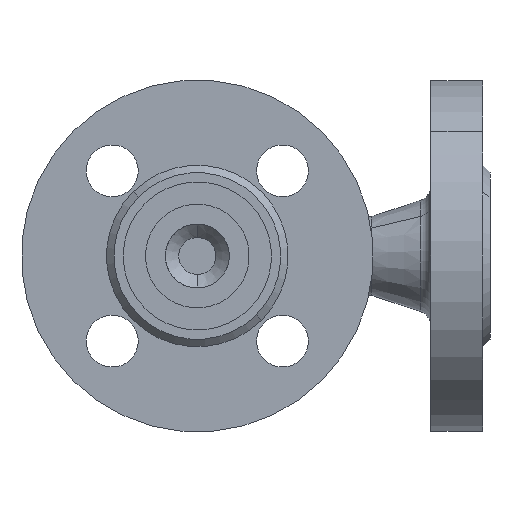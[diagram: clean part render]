
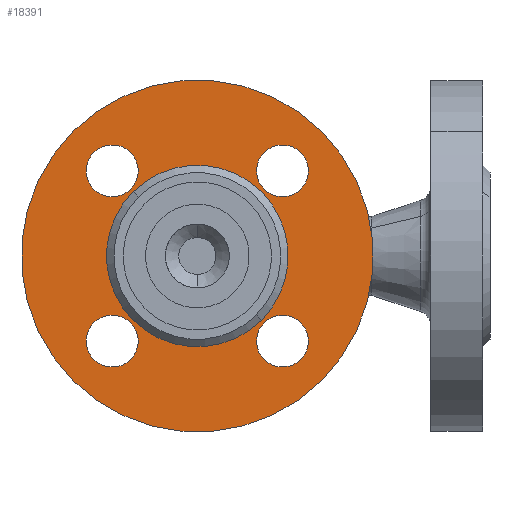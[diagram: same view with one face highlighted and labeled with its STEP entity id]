
A CAD part, front view. The second image highlights one B-rep face of the part: STEP entity #18391.
In plain terms, the highlighted planar face has unit normal (0, -1, 0).
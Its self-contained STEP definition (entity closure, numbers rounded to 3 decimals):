
#3 = EDGE_LOOP ( 'NONE', ( #23164, #21485 ) ) ;
#16465 = EDGE_LOOP ( 'NONE', ( #15949, #3556 ) ) ;
#16467 = VERTEX_POINT ( 'NONE', #11248 ) ;
#16542 = EDGE_CURVE ( 'NONE', #6736, #15077, #11286, .T. ) ;
#222 = CIRCLE ( 'NONE', #223, 7. ) ;
#223 = AXIS2_PLACEMENT_3D ( 'NONE', #224, #245, #246 ) ;
#224 = CARTESIAN_POINT ( 'NONE',  ( -32.5, 2., 0. ) ) ;
#245 = DIRECTION ( 'NONE',  ( 0., 1., 0. ) ) ;
#246 = DIRECTION ( 'NONE',  ( -1., 0., 0. ) ) ;
#16697 = EDGE_CURVE ( 'NONE', #16467, #16244, #12606, .T. ) ;
#16715 = ORIENTED_EDGE ( 'NONE', *, *, #18548, .T. ) ;
#457 = ORIENTED_EDGE ( 'NONE', *, *, #7946, .T. ) ;
#17239 = EDGE_CURVE ( 'NONE', #18031, #18258, #13300, .T. ) ;
#1221 = VERTEX_POINT ( 'NONE', #18914 ) ;
#17616 = ORIENTED_EDGE ( 'NONE', *, *, #17239, .T. ) ;
#1434 = EDGE_CURVE ( 'NONE', #7494, #7714, #19045, .T. ) ;
#1643 = VERTEX_POINT ( 'NONE', #19499 ) ;
#18031 = VERTEX_POINT ( 'NONE', #14804 ) ;
#18144 = EDGE_LOOP ( 'NONE', ( #17616, #16715 ) ) ;
#1883 = CARTESIAN_POINT ( 'NONE',  ( 25.5, 2., 0. ) ) ;
#18258 = VERTEX_POINT ( 'NONE', #15018 ) ;
#18391 = ADVANCED_FACE ( 'NONE', ( #15126, #15127, #15128, #15129, #15130, #15131 ), #15132, .F. ) ;
#2061 = EDGE_CURVE ( 'NONE', #1643, #1221, #19775, .T. ) ;
#2132 = ORIENTED_EDGE ( 'NONE', *, *, #1434, .T. ) ;
#18548 = EDGE_CURVE ( 'NONE', #18258, #18031, #15406, .T. ) ;
#2363 = CARTESIAN_POINT ( 'NONE',  ( 39.5, 2., 0. ) ) ;
#18914 = CARTESIAN_POINT ( 'NONE',  ( -39.5, 2., 0. ) ) ;
#2652 = CIRCLE ( 'NONE', #2653, 7. ) ;
#2653 = AXIS2_PLACEMENT_3D ( 'NONE', #2654, #2655, #2656 ) ;
#2654 = CARTESIAN_POINT ( 'NONE',  ( 32.5, 2., 0. ) ) ;
#2655 = DIRECTION ( 'NONE',  ( 0., 1., 0. ) ) ;
#2656 = DIRECTION ( 'NONE',  ( -1., 0., 0. ) ) ;
#19045 = CIRCLE ( 'NONE', #19046, 7. ) ;
#19046 = AXIS2_PLACEMENT_3D ( 'NONE', #19047, #19048, #19049 ) ;
#19047 = CARTESIAN_POINT ( 'NONE',  ( 0., 2., 32.5 ) ) ;
#19048 = DIRECTION ( 'NONE',  ( 0., 1., 0. ) ) ;
#19049 = DIRECTION ( 'NONE',  ( -1., 0., 0. ) ) ;
#19471 = CIRCLE ( 'NONE', #19472, 47.5 ) ;
#19472 = AXIS2_PLACEMENT_3D ( 'NONE', #19473, #19474, #19475 ) ;
#19473 = CARTESIAN_POINT ( 'NONE',  ( 0., 2., 0. ) ) ;
#19474 = DIRECTION ( 'NONE',  ( 0., 1., 0. ) ) ;
#19475 = DIRECTION ( 'NONE',  ( -1., 0., 0. ) ) ;
#3113 = EDGE_LOOP ( 'NONE', ( #2132, #457 ) ) ;
#19499 = CARTESIAN_POINT ( 'NONE',  ( -25.5, 2., 0. ) ) ;
#19775 = CIRCLE ( 'NONE', #19776, 7. ) ;
#19776 = AXIS2_PLACEMENT_3D ( 'NONE', #19777, #19778, #19779 ) ;
#19777 = CARTESIAN_POINT ( 'NONE',  ( -32.5, 2., 0. ) ) ;
#19778 = DIRECTION ( 'NONE',  ( 0., 1., 0. ) ) ;
#19779 = DIRECTION ( 'NONE',  ( -1., 0., 0. ) ) ;
#3556 = ORIENTED_EDGE ( 'NONE', *, *, #2061, .T. ) ;
#20052 = ORIENTED_EDGE ( 'NONE', *, *, #16697, .F. ) ;
#21036 = EDGE_LOOP ( 'NONE', ( #20052, #9061 ) ) ;
#21071 = EDGE_CURVE ( 'NONE', #16244, #16467, #19471, .T. ) ;
#21485 = ORIENTED_EDGE ( 'NONE', *, *, #12236, .T. ) ;
#22462 = EDGE_CURVE ( 'NONE', #11779, #12006, #22697, .T. ) ;
#22697 = CIRCLE ( 'NONE', #22698, 7. ) ;
#22698 = AXIS2_PLACEMENT_3D ( 'NONE', #22699, #22700, #22701 ) ;
#22699 = CARTESIAN_POINT ( 'NONE',  ( 32.5, 2., 0. ) ) ;
#22700 = DIRECTION ( 'NONE',  ( 0., 1., 0. ) ) ;
#22701 = DIRECTION ( 'NONE',  ( -1., 0., 0. ) ) ;
#6736 = VERTEX_POINT ( 'NONE', #11208 ) ;
#23164 = ORIENTED_EDGE ( 'NONE', *, *, #22462, .T. ) ;
#23767 = CARTESIAN_POINT ( 'NONE',  ( -24.5, 2., 0. ) ) ;
#7494 = VERTEX_POINT ( 'NONE', #13228 ) ;
#24085 = CIRCLE ( 'NONE', #24086, 24.5 ) ;
#24086 = AXIS2_PLACEMENT_3D ( 'NONE', #24087, #24088, #24089 ) ;
#24087 = CARTESIAN_POINT ( 'NONE',  ( 0., 2., 0. ) ) ;
#24088 = DIRECTION ( 'NONE',  ( 0., 1., 0. ) ) ;
#24089 = DIRECTION ( 'NONE',  ( -1., 0., 0. ) ) ;
#7714 = VERTEX_POINT ( 'NONE', #13672 ) ;
#7789 = ORIENTED_EDGE ( 'NONE', *, *, #16542, .T. ) ;
#7946 = EDGE_CURVE ( 'NONE', #7714, #7494, #14198, .T. ) ;
#8324 = ORIENTED_EDGE ( 'NONE', *, *, #15300, .T. ) ;
#8848 = EDGE_LOOP ( 'NONE', ( #8324, #7789 ) ) ;
#9061 = ORIENTED_EDGE ( 'NONE', *, *, #21071, .F. ) ;
#11148 = CARTESIAN_POINT ( 'NONE',  ( 47.5, 2., 0. ) ) ;
#11208 = CARTESIAN_POINT ( 'NONE',  ( 24.5, 2., 0. ) ) ;
#11248 = CARTESIAN_POINT ( 'NONE',  ( -47.5, 2., 0. ) ) ;
#11286 = CIRCLE ( 'NONE', #11287, 24.5 ) ;
#11287 = AXIS2_PLACEMENT_3D ( 'NONE', #11288, #11289, #11290 ) ;
#11288 = CARTESIAN_POINT ( 'NONE',  ( 0., 2., 0. ) ) ;
#11289 = DIRECTION ( 'NONE',  ( 0., 1., 0. ) ) ;
#11290 = DIRECTION ( 'NONE',  ( -1., 0., 0. ) ) ;
#11779 = VERTEX_POINT ( 'NONE', #1883 ) ;
#12006 = VERTEX_POINT ( 'NONE', #2363 ) ;
#12236 = EDGE_CURVE ( 'NONE', #12006, #11779, #2652, .T. ) ;
#12606 = CIRCLE ( 'NONE', #12607, 47.5 ) ;
#12607 = AXIS2_PLACEMENT_3D ( 'NONE', #12608, #12609, #12610 ) ;
#12608 = CARTESIAN_POINT ( 'NONE',  ( 0., 2., 0. ) ) ;
#12609 = DIRECTION ( 'NONE',  ( 0., 1., 0. ) ) ;
#12610 = DIRECTION ( 'NONE',  ( -1., 0., 0. ) ) ;
#13228 = CARTESIAN_POINT ( 'NONE',  ( -7., 2., 32.5 ) ) ;
#13300 = CIRCLE ( 'NONE', #13301, 7. ) ;
#13301 = AXIS2_PLACEMENT_3D ( 'NONE', #13302, #13303, #13304 ) ;
#13302 = CARTESIAN_POINT ( 'NONE',  ( 0., 2., -32.5 ) ) ;
#13303 = DIRECTION ( 'NONE',  ( 0., 1., 0. ) ) ;
#13304 = DIRECTION ( 'NONE',  ( -1., 0., 0. ) ) ;
#13672 = CARTESIAN_POINT ( 'NONE',  ( 7., 2., 32.5 ) ) ;
#14198 = CIRCLE ( 'NONE', #14199, 7. ) ;
#14199 = AXIS2_PLACEMENT_3D ( 'NONE', #14200, #14201, #14202 ) ;
#14200 = CARTESIAN_POINT ( 'NONE',  ( 0., 2., 32.5 ) ) ;
#14201 = DIRECTION ( 'NONE',  ( 0., 1., 0. ) ) ;
#14202 = DIRECTION ( 'NONE',  ( -1., 0., 0. ) ) ;
#14804 = CARTESIAN_POINT ( 'NONE',  ( -7., 2., -32.5 ) ) ;
#15018 = CARTESIAN_POINT ( 'NONE',  ( 7., 2., -32.5 ) ) ;
#15077 = VERTEX_POINT ( 'NONE', #23767 ) ;
#15126 = FACE_BOUND ( 'NONE', #18144, .T. ) ;
#15127 = FACE_BOUND ( 'NONE', #16465, .T. ) ;
#15128 = FACE_BOUND ( 'NONE', #3113, .T. ) ;
#15129 = FACE_BOUND ( 'NONE', #3, .T. ) ;
#15130 = FACE_OUTER_BOUND ( 'NONE', #21036, .T. ) ;
#15131 = FACE_BOUND ( 'NONE', #8848, .T. ) ;
#15132 = PLANE ( 'NONE',  #15133 ) ;
#15133 = AXIS2_PLACEMENT_3D ( 'NONE', #15134, #15139, #15140 ) ;
#15134 = CARTESIAN_POINT ( 'NONE',  ( 24.5, 2., 0. ) ) ;
#15139 = DIRECTION ( 'NONE',  ( 0., 1., 0. ) ) ;
#15140 = DIRECTION ( 'NONE',  ( -1., 0., 0. ) ) ;
#15300 = EDGE_CURVE ( 'NONE', #15077, #6736, #24085, .T. ) ;
#15406 = CIRCLE ( 'NONE', #15407, 7. ) ;
#15407 = AXIS2_PLACEMENT_3D ( 'NONE', #15408, #15409, #15410 ) ;
#15408 = CARTESIAN_POINT ( 'NONE',  ( 0., 2., -32.5 ) ) ;
#15409 = DIRECTION ( 'NONE',  ( 0., 1., 0. ) ) ;
#15410 = DIRECTION ( 'NONE',  ( -1., 0., 0. ) ) ;
#15564 = EDGE_CURVE ( 'NONE', #1221, #1643, #222, .T. ) ;
#15949 = ORIENTED_EDGE ( 'NONE', *, *, #15564, .T. ) ;
#16244 = VERTEX_POINT ( 'NONE', #11148 ) ;
